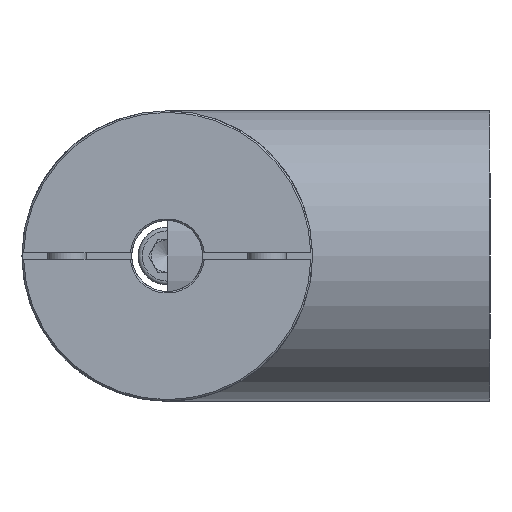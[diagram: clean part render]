
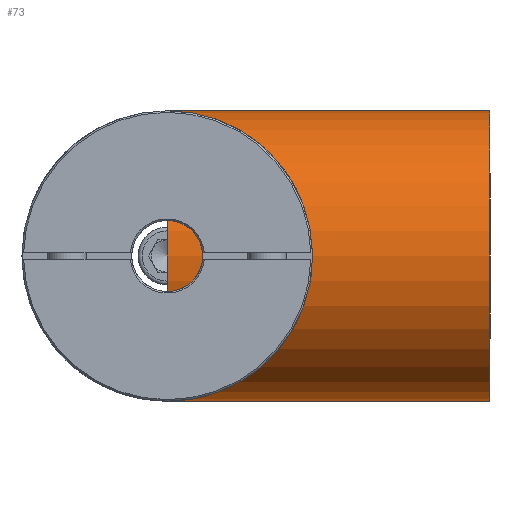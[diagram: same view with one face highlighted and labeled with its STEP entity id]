
A CAD part, left-side view. The second image highlights one B-rep face of the part: STEP entity #73.
In plain terms, the highlighted cylindrical face has radius 45 mm (diameter 90 mm), a full revolution.
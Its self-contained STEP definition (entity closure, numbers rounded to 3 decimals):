
#73 = ADVANCED_FACE( '', ( #123, #124 ), #125, .T. );
#123 = FACE_OUTER_BOUND( '', #182, .T. );
#124 = FACE_OUTER_BOUND( '', #183, .T. );
#125 = CYLINDRICAL_SURFACE( '', #184, 45. );
#182 = EDGE_LOOP( '', ( #319 ) );
#183 = EDGE_LOOP( '', ( #320 ) );
#184 = AXIS2_PLACEMENT_3D( '', #321, #322, #323 );
#319 = ORIENTED_EDGE( '', *, *, #585, .T. );
#320 = ORIENTED_EDGE( '', *, *, #586, .F. );
#321 = CARTESIAN_POINT( '', ( 0., -100., 0. ) );
#322 = DIRECTION( '', ( 0., -1., 0. ) );
#323 = DIRECTION( '', ( 0., 0., 1. ) );
#585 = EDGE_CURVE( '', #835, #835, #836, .T. );
#586 = EDGE_CURVE( '', #837, #837, #838, .T. );
#835 = VERTEX_POINT( '', #1365 );
#836 = CIRCLE( '', #1366, 45. );
#837 = VERTEX_POINT( '', #1367 );
#838 = CIRCLE( '', #1368, 45. );
#1365 = CARTESIAN_POINT( '', ( 45., -100., 0. ) );
#1366 = AXIS2_PLACEMENT_3D( '', #1505, #1506, #1507 );
#1367 = CARTESIAN_POINT( '', ( 45., 0., 0. ) );
#1368 = AXIS2_PLACEMENT_3D( '', #1508, #1509, #1510 );
#1505 = CARTESIAN_POINT( '', ( 0., -100., 0. ) );
#1506 = DIRECTION( '', ( 0., 1., 0. ) );
#1507 = DIRECTION( '', ( 1., 0., 0. ) );
#1508 = CARTESIAN_POINT( '', ( 0., 0., 0. ) );
#1509 = DIRECTION( '', ( 0., 1., 0. ) );
#1510 = DIRECTION( '', ( 1., 0., 0. ) );
